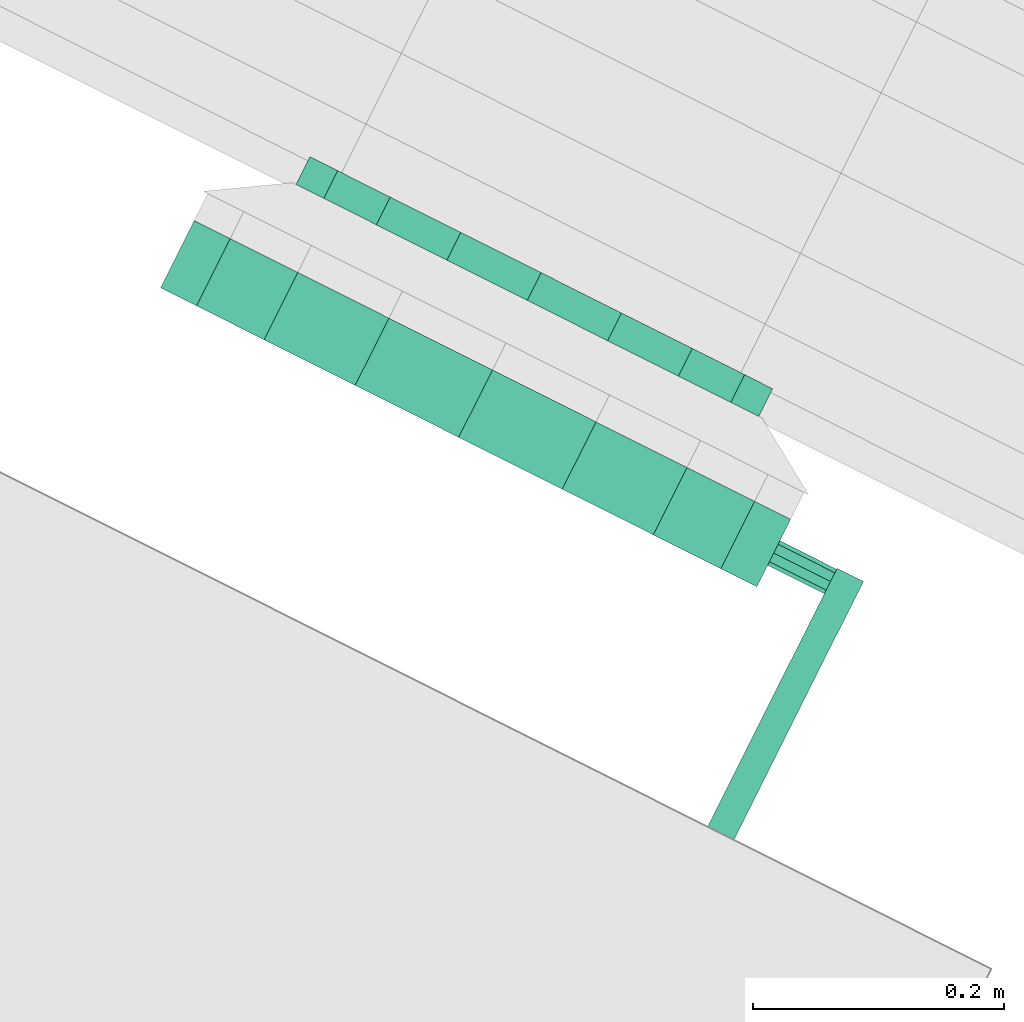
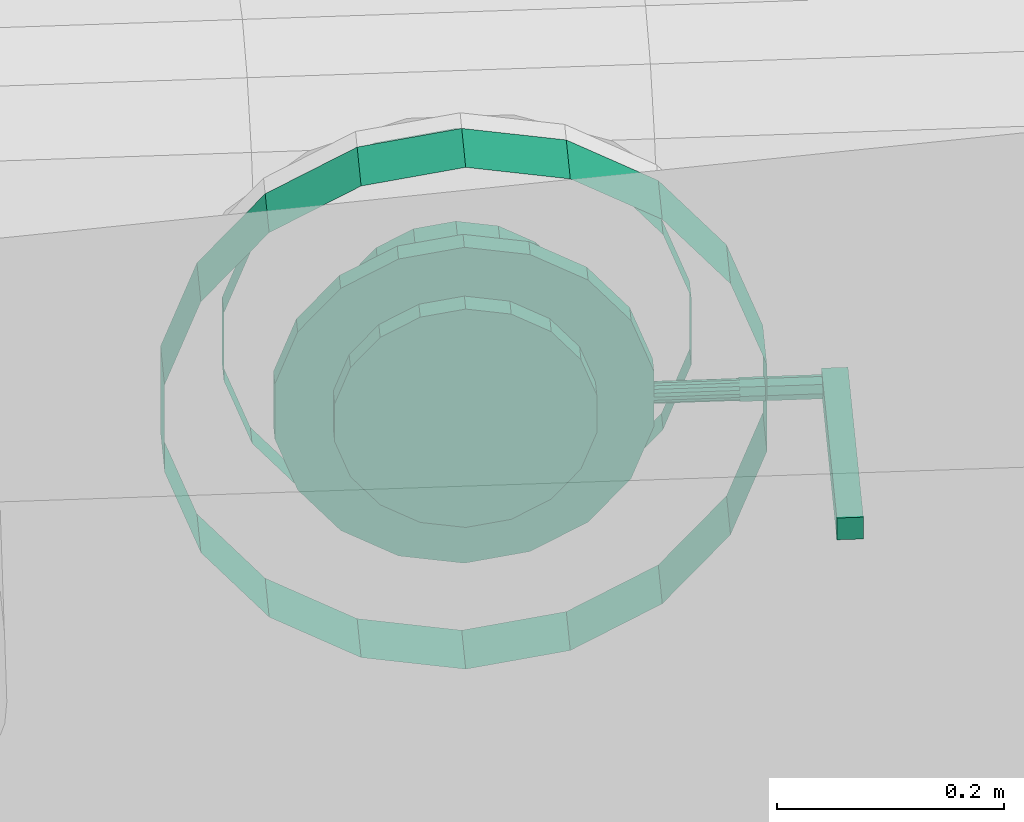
# One storey, part 52 of 152: 1 flow controller, 1 flow segment.
"""IFC2X3 building model written with IfcOpenShell, lengths in metres."""

from ifc_helpers import new_model, si_unit, derived_unit, direction, frame, origin, place, context, subcontext, project, spatial, face_set, surface_model, source, transform, mapped, material, type_object, type_shapes, element, save


model = new_model("IFC2X3")

# Units and contexts
model_context = context("Model", 3, precision=5.2338327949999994e-05, world=origin(), true_north=direction((0.0, 1.0)))
body_context = subcontext(model_context, "Body", "Model", "MODEL_VIEW")
ifc_project = project(units=[si_unit("LENGTHUNIT", "METRE"), si_unit("AREAUNIT", "SQUARE_METRE"), si_unit("VOLUMEUNIT", "CUBIC_METRE"), si_unit("MASSUNIT", "GRAM", prefix="KILO"), si_unit("PLANEANGLEUNIT", "RADIAN"), derived_unit("THERMALTRANSMITTANCEUNIT", [(si_unit("MASSUNIT", "GRAM", prefix="KILO"), 1), (si_unit("THERMODYNAMICTEMPERATUREUNIT", "KELVIN"), -1), (si_unit("TIMEUNIT", "SECOND"), -3)])], contexts=[model_context])

# Site, building, storey
site_placement = place(None, frame((0.0, 0.0, 0.0), z_axis=(0.0, 0.0, 1.0), x_axis=(0.8939966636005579, -0.4480736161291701, 0.0)))
site = spatial("IfcSite", under=ifc_project, at=site_placement, Name="Default", CompositionType="ELEMENT")
building_placement = place(site_placement, origin())
building = spatial("IfcBuilding", under=site, at=building_placement, CompositionType="ELEMENT")
storey_placement = place(building_placement, frame((0.0, 0.0, 2.7499999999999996)))
storey = spatial("IfcBuildingStorey", under=building, at=storey_placement, Name="1. Obergeschoss", CompositionType="ELEMENT", Elevation=2.7499999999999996)

# Flow controller
ifc_material = material(Name="IfcSurfaceStyle #9317")
distribution_element_type_1 = type_object("IfcDistributionElementType", Name="Zwischenflanschklappe 613281:Zwischenflanschklappe 613281", material=ifc_material)
shared_shape_1 = source(origin(), body_context, "Body", "SurfaceModel", [
    surface_model("IfcFaceBasedSurfaceModel", [(34.26677278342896, 8.120137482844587, 4.571299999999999), (34.26677278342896, 8.350987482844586, 4.571299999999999), (34.26677278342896, 8.350987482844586, 4.547799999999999), (34.26677278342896, 8.120137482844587, 4.547799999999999), (34.29027278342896, 8.350987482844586, 4.547799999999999), (34.29027278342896, 8.120137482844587, 4.547799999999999), (34.29027278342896, 8.350987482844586, 4.571299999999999), (34.29027278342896, 8.120137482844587, 4.571299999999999), (33.950272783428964, 8.309237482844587, 4.442049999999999), (33.910085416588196, 8.309237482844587, 4.449136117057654), (33.910085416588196, 8.329237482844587, 4.449136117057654), (33.950272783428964, 8.329237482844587, 4.442049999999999), (33.874745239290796, 8.309237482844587, 4.469539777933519), (33.874745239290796, 8.329237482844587, 4.469539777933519), (33.84851479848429, 8.309237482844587, 4.500799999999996), (33.84851479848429, 8.329237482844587, 4.500799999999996), (33.83455787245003, 8.309237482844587, 4.539146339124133), (33.83455787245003, 8.329237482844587, 4.539146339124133), (33.83455787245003, 8.309237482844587, 4.579953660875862), (33.83455787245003, 8.329237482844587, 4.579953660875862), (33.84851479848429, 8.309237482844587, 4.6183), (33.84851479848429, 8.329237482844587, 4.6183), (33.874745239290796, 8.309237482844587, 4.649560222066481), (33.874745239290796, 8.329237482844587, 4.649560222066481), (33.910085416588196, 8.309237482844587, 4.669963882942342), (33.910085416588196, 8.329237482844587, 4.669963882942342), (33.950272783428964, 8.309237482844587, 4.677049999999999), (33.950272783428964, 8.329237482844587, 4.677049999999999), (33.990460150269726, 8.309237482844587, 4.669963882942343), (33.990460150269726, 8.329237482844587, 4.669963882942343), (34.02580032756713, 8.309237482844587, 4.649560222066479), (34.02580032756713, 8.329237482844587, 4.649560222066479), (34.05203076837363, 8.309237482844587, 4.618299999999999), (34.05203076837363, 8.329237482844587, 4.618299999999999), (34.065987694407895, 8.309237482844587, 4.579953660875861), (34.065987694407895, 8.329237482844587, 4.579953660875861), (34.065987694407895, 8.309237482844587, 4.539146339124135), (34.065987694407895, 8.329237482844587, 4.539146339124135), (34.05203076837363, 8.309237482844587, 4.5008), (34.05203076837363, 8.329237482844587, 4.5008), (34.02580032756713, 8.309237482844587, 4.469539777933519), (34.02580032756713, 8.329237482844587, 4.469539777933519), (33.990460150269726, 8.309237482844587, 4.449136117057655), (33.990460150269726, 8.329237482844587, 4.449136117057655), (33.950272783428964, 8.309237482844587, 4.559549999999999), (33.950272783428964, 8.329237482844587, 4.559549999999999), (33.950272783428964, 8.329237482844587, 4.38955), (33.89212935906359, 8.329237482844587, 4.399802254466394), (33.89212935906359, 8.349237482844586, 4.399802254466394), (33.950272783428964, 8.349237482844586, 4.38955), (33.84099888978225, 8.329237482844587, 4.42932244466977), (33.84099888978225, 8.349237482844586, 4.42932244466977), (33.803048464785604, 8.329237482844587, 4.474549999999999), (33.803048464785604, 8.349237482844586, 4.474549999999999), (33.78285546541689, 8.329237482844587, 4.530029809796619), (33.78285546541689, 8.349237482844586, 4.530029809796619), (33.78285546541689, 8.329237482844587, 4.589070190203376), (33.78285546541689, 8.349237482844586, 4.589070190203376), (33.803048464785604, 8.329237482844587, 4.64455), (33.803048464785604, 8.349237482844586, 4.64455), (33.84099888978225, 8.329237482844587, 4.689777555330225), (33.84099888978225, 8.349237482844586, 4.689777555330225), (33.89212935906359, 8.329237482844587, 4.719297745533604), (33.89212935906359, 8.349237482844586, 4.719297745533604), (33.950272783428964, 8.329237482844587, 4.729549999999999), (33.950272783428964, 8.349237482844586, 4.729549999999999), (34.008416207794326, 8.329237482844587, 4.719297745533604), (34.008416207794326, 8.349237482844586, 4.719297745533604), (34.059546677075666, 8.329237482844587, 4.689777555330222), (34.059546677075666, 8.349237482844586, 4.689777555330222), (34.09749710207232, 8.329237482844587, 4.644549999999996), (34.09749710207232, 8.349237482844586, 4.644549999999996), (34.11769010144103, 8.329237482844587, 4.589070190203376), (34.11769010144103, 8.349237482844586, 4.589070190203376), (34.11769010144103, 8.329237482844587, 4.53002980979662), (34.11769010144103, 8.349237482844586, 4.53002980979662), (34.09749710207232, 8.329237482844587, 4.474549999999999), (34.09749710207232, 8.349237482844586, 4.474549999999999), (34.059546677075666, 8.329237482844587, 4.429322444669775), (34.059546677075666, 8.349237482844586, 4.429322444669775), (34.008416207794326, 8.329237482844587, 4.399802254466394), (34.008416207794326, 8.349237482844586, 4.399802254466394), (33.950272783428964, 8.349237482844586, 4.559549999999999), (33.950272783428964, 8.349237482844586, 4.442049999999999), (33.910085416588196, 8.349237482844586, 4.449136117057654), (33.910085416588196, 8.369237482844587, 4.449136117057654), (33.950272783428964, 8.369237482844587, 4.442049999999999), (33.874745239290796, 8.349237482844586, 4.469539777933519), (33.874745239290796, 8.369237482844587, 4.469539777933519), (33.84851479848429, 8.349237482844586, 4.500799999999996), (33.84851479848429, 8.369237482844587, 4.500799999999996), (33.83455787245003, 8.349237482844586, 4.539146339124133), (33.83455787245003, 8.369237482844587, 4.539146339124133), (33.83455787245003, 8.349237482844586, 4.579953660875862), (33.83455787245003, 8.369237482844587, 4.579953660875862), (33.84851479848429, 8.349237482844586, 4.6183), (33.84851479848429, 8.369237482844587, 4.6183), (33.874745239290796, 8.349237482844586, 4.649560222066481), (33.874745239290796, 8.369237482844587, 4.649560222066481), (33.910085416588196, 8.349237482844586, 4.669963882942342), (33.910085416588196, 8.369237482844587, 4.669963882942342), (33.950272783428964, 8.349237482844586, 4.677049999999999), (33.950272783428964, 8.369237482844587, 4.677049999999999), (33.990460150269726, 8.349237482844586, 4.669963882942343), (33.990460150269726, 8.369237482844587, 4.669963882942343), (34.02580032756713, 8.349237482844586, 4.649560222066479), (34.02580032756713, 8.369237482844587, 4.649560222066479), (34.05203076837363, 8.349237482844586, 4.618299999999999), (34.05203076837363, 8.369237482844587, 4.618299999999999), (34.065987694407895, 8.349237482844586, 4.579953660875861), (34.065987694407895, 8.369237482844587, 4.579953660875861), (34.065987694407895, 8.349237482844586, 4.539146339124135), (34.065987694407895, 8.369237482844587, 4.539146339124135), (34.05203076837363, 8.349237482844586, 4.5008), (34.05203076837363, 8.369237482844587, 4.5008), (34.02580032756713, 8.349237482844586, 4.469539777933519), (34.02580032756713, 8.369237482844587, 4.469539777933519), (33.990460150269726, 8.349237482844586, 4.449136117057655), (33.990460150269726, 8.369237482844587, 4.449136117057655), (33.950272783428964, 8.369237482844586, 4.559549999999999), (33.950272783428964, 8.339237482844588, 4.549549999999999), (33.950272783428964, 8.342657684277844, 4.55015307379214), (34.19352278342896, 8.342657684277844, 4.55015307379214), (34.19352278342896, 8.339237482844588, 4.549549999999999), (33.950272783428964, 8.345665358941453, 4.551889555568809), (34.19352278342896, 8.345665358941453, 4.551889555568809), (33.950272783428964, 8.34789773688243, 4.554549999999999), (34.19352278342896, 8.34789773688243, 4.554549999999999), (33.950272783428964, 8.349085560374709, 4.5578135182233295), (34.19352278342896, 8.349085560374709, 4.5578135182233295), (33.950272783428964, 8.349085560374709, 4.561286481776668), (34.19352278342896, 8.349085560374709, 4.561286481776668), (33.950272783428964, 8.34789773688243, 4.564549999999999), (34.19352278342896, 8.34789773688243, 4.564549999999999), (33.950272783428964, 8.345665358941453, 4.567210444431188), (34.19352278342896, 8.345665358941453, 4.567210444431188), (33.950272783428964, 8.342657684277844, 4.568946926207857), (34.19352278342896, 8.342657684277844, 4.568946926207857), (33.950272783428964, 8.339237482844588, 4.569549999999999), (34.19352278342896, 8.339237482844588, 4.569549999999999), (33.950272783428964, 8.33581728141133, 4.568946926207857), (34.19352278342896, 8.33581728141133, 4.568946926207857), (33.950272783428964, 8.332809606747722, 4.567210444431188), (34.19352278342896, 8.332809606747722, 4.567210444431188), (33.950272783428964, 8.330577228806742, 4.564549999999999), (34.19352278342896, 8.330577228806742, 4.564549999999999), (33.950272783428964, 8.329389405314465, 4.561286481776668), (34.19352278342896, 8.329389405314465, 4.561286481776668), (33.950272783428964, 8.329389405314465, 4.5578135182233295), (34.19352278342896, 8.329389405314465, 4.5578135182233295), (33.950272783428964, 8.330577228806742, 4.554549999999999), (34.19352278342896, 8.330577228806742, 4.554549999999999), (33.950272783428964, 8.332809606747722, 4.551889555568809), (34.19352278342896, 8.332809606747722, 4.551889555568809), (33.950272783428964, 8.33581728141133, 4.55015307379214), (34.19352278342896, 8.33581728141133, 4.55015307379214), (33.95027278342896, 8.339237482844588, 4.559549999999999), (34.19352278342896, 8.339237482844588, 4.559549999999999), (34.19352278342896, 8.339237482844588, 4.548594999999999), (34.19352278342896, 8.346983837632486, 4.5518036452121), (34.26677278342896, 8.346983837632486, 4.5518036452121), (34.26677278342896, 8.339237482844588, 4.548594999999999), (34.19352278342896, 8.350192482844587, 4.559549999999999), (34.26677278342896, 8.350192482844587, 4.559549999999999), (34.19352278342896, 8.346983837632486, 4.5672963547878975), (34.26677278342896, 8.346983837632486, 4.5672963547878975), (34.19352278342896, 8.339237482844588, 4.570504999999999), (34.26677278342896, 8.339237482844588, 4.570504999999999), (34.19352278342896, 8.331491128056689, 4.5672963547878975), (34.26677278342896, 8.331491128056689, 4.5672963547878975), (34.19352278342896, 8.328282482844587, 4.559549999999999), (34.26677278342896, 8.328282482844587, 4.559549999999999), (34.19352278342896, 8.331491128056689, 4.5518036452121), (34.26677278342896, 8.331491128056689, 4.5518036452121), (34.26677278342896, 8.33923748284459, 4.559549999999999), (33.950272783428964, 8.309237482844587, 4.289549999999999), (33.85792734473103, 8.309237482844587, 4.305832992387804), (33.85792734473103, 8.369237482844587, 4.305832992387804), (33.950272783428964, 8.369237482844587, 4.289549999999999), (33.776720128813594, 8.309237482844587, 4.352718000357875), (33.776720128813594, 8.369237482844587, 4.352718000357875), (33.71644592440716, 8.309237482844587, 4.424549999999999), (33.71644592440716, 8.369237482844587, 4.424549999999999), (33.68437469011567, 8.309237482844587, 4.5126649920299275), (33.68437469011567, 8.369237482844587, 4.5126649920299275), (33.68437469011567, 8.309237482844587, 4.60643500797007), (33.68437469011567, 8.369237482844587, 4.60643500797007), (33.71644592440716, 8.309237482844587, 4.694549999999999), (33.71644592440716, 8.369237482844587, 4.694549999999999), (33.776720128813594, 8.309237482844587, 4.766381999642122), (33.776720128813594, 8.369237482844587, 4.766381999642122), (33.85792734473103, 8.309237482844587, 4.813267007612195), (33.85792734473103, 8.369237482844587, 4.813267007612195), (33.950272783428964, 8.309237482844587, 4.829549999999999), (33.950272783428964, 8.369237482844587, 4.829549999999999), (34.04261822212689, 8.309237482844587, 4.813267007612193), (34.04261822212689, 8.369237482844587, 4.813267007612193), (34.12382543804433, 8.309237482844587, 4.766381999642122), (34.12382543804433, 8.369237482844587, 4.766381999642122), (34.18409964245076, 8.309237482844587, 4.694549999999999), (34.18409964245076, 8.369237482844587, 4.694549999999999), (34.21617087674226, 8.309237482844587, 4.60643500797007), (34.21617087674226, 8.369237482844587, 4.60643500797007), (34.21617087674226, 8.309237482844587, 4.5126649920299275), (34.21617087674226, 8.369237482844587, 4.5126649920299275), (34.18409964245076, 8.309237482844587, 4.424549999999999), (34.18409964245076, 8.369237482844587, 4.424549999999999), (34.12382543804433, 8.309237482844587, 4.352718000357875), (34.12382543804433, 8.369237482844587, 4.352718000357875), (34.04261822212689, 8.309237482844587, 4.305832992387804), (34.04261822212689, 8.369237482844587, 4.305832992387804)], [face_set([[[0, 1, 2, 3]], [[3, 2, 4, 5]], [[5, 4, 6, 7]], [[7, 6, 1, 0]], [[0, 3, 5, 7]], [[6, 4, 2, 1]], [[8, 9, 10, 11]], [[9, 12, 13, 10]], [[12, 14, 15, 13]], [[14, 16, 17, 15]], [[16, 18, 19, 17]], [[18, 20, 21, 19]], [[20, 22, 23, 21]], [[22, 24, 25, 23]], [[24, 26, 27, 25]], [[26, 28, 29, 27]], [[28, 30, 31, 29]], [[30, 32, 33, 31]], [[32, 34, 35, 33]], [[34, 36, 37, 35]], [[36, 38, 39, 37]], [[38, 40, 41, 39]], [[40, 42, 43, 41]], [[42, 8, 11, 43]], [[44, 9, 8]], [[44, 12, 9]], [[44, 14, 12]], [[44, 16, 14]], [[44, 18, 16]], [[44, 20, 18]], [[44, 22, 20]], [[44, 24, 22]], [[44, 26, 24]], [[44, 28, 26]], [[44, 30, 28]], [[44, 32, 30]], [[44, 34, 32]], [[44, 36, 34]], [[44, 38, 36]], [[44, 40, 38]], [[44, 42, 40]], [[44, 8, 42]], [[45, 43, 11]], [[45, 41, 43]], [[45, 39, 41]], [[45, 37, 39]], [[45, 35, 37]], [[45, 33, 35]], [[45, 31, 33]], [[45, 29, 31]], [[45, 27, 29]], [[45, 25, 27]], [[45, 23, 25]], [[45, 21, 23]], [[45, 19, 21]], [[45, 17, 19]], [[45, 15, 17]], [[45, 13, 15]], [[45, 10, 13]], [[45, 11, 10]], [[46, 47, 48, 49]], [[47, 50, 51, 48]], [[50, 52, 53, 51]], [[52, 54, 55, 53]], [[54, 56, 57, 55]], [[56, 58, 59, 57]], [[58, 60, 61, 59]], [[60, 62, 63, 61]], [[62, 64, 65, 63]], [[64, 66, 67, 65]], [[66, 68, 69, 67]], [[68, 70, 71, 69]], [[70, 72, 73, 71]], [[72, 74, 75, 73]], [[74, 76, 77, 75]], [[76, 78, 79, 77]], [[78, 80, 81, 79]], [[80, 46, 49, 81]], [[45, 47, 46]], [[45, 50, 47]], [[45, 52, 50]], [[45, 54, 52]], [[45, 56, 54]], [[45, 58, 56]], [[45, 60, 58]], [[45, 62, 60]], [[45, 64, 62]], [[45, 66, 64]], [[45, 68, 66]], [[45, 70, 68]], [[45, 72, 70]], [[45, 74, 72]], [[45, 76, 74]], [[45, 78, 76]], [[45, 80, 78]], [[45, 46, 80]], [[82, 81, 49]], [[82, 79, 81]], [[82, 77, 79]], [[82, 75, 77]], [[82, 73, 75]], [[82, 71, 73]], [[82, 69, 71]], [[82, 67, 69]], [[82, 65, 67]], [[82, 63, 65]], [[82, 61, 63]], [[82, 59, 61]], [[82, 57, 59]], [[82, 55, 57]], [[82, 53, 55]], [[82, 51, 53]], [[82, 48, 51]], [[82, 49, 48]], [[83, 84, 85, 86]], [[84, 87, 88, 85]], [[87, 89, 90, 88]], [[89, 91, 92, 90]], [[91, 93, 94, 92]], [[93, 95, 96, 94]], [[95, 97, 98, 96]], [[97, 99, 100, 98]], [[99, 101, 102, 100]], [[101, 103, 104, 102]], [[103, 105, 106, 104]], [[105, 107, 108, 106]], [[107, 109, 110, 108]], [[109, 111, 112, 110]], [[111, 113, 114, 112]], [[113, 115, 116, 114]], [[115, 117, 118, 116]], [[117, 83, 86, 118]], [[82, 84, 83]], [[82, 87, 84]], [[82, 89, 87]], [[82, 91, 89]], [[82, 93, 91]], [[82, 95, 93]], [[82, 97, 95]], [[82, 99, 97]], [[82, 101, 99]], [[82, 103, 101]], [[82, 105, 103]], [[82, 107, 105]], [[82, 109, 107]], [[82, 111, 109]], [[82, 113, 111]], [[82, 115, 113]], [[82, 117, 115]], [[82, 83, 117]], [[119, 118, 86]], [[119, 116, 118]], [[119, 114, 116]], [[119, 112, 114]], [[119, 110, 112]], [[119, 108, 110]], [[119, 106, 108]], [[119, 104, 106]], [[119, 102, 104]], [[119, 100, 102]], [[119, 98, 100]], [[119, 96, 98]], [[119, 94, 96]], [[119, 92, 94]], [[119, 90, 92]], [[119, 88, 90]], [[119, 85, 88]], [[119, 86, 85]], [[120, 121, 122, 123]], [[121, 124, 125, 122]], [[124, 126, 127, 125]], [[126, 128, 129, 127]], [[128, 130, 131, 129]], [[130, 132, 133, 131]], [[132, 134, 135, 133]], [[134, 136, 137, 135]], [[136, 138, 139, 137]], [[138, 140, 141, 139]], [[140, 142, 143, 141]], [[142, 144, 145, 143]], [[144, 146, 147, 145]], [[146, 148, 149, 147]], [[148, 150, 151, 149]], [[150, 152, 153, 151]], [[152, 154, 155, 153]], [[154, 120, 123, 155]], [[156, 121, 120]], [[156, 124, 121]], [[156, 126, 124]], [[156, 128, 126]], [[156, 130, 128]], [[156, 132, 130]], [[156, 134, 132]], [[156, 136, 134]], [[156, 138, 136]], [[156, 140, 138]], [[156, 142, 140]], [[156, 144, 142]], [[156, 146, 144]], [[156, 148, 146]], [[156, 150, 148]], [[156, 152, 150]], [[156, 154, 152]], [[156, 120, 154]], [[157, 155, 123]], [[157, 153, 155]], [[157, 151, 153]], [[157, 149, 151]], [[157, 147, 149]], [[157, 145, 147]], [[157, 143, 145]], [[157, 141, 143]], [[157, 139, 141]], [[157, 137, 139]], [[157, 135, 137]], [[157, 133, 135]], [[157, 131, 133]], [[157, 129, 131]], [[157, 127, 129]], [[157, 125, 127]], [[157, 122, 125]], [[157, 123, 122]], [[158, 159, 160, 161]], [[159, 162, 163, 160]], [[162, 164, 165, 163]], [[164, 166, 167, 165]], [[166, 168, 169, 167]], [[168, 170, 171, 169]], [[170, 172, 173, 171]], [[172, 158, 161, 173]], [[174, 173, 161]], [[174, 171, 173]], [[174, 169, 171]], [[174, 167, 169]], [[174, 165, 167]], [[174, 163, 165]], [[174, 160, 163]], [[174, 161, 160]], [[175, 176, 177, 178]], [[176, 179, 180, 177]], [[179, 181, 182, 180]], [[181, 183, 184, 182]], [[183, 185, 186, 184]], [[185, 187, 188, 186]], [[187, 189, 190, 188]], [[189, 191, 192, 190]], [[191, 193, 194, 192]], [[193, 195, 196, 194]], [[195, 197, 198, 196]], [[197, 199, 200, 198]], [[199, 201, 202, 200]], [[201, 203, 204, 202]], [[203, 205, 206, 204]], [[205, 207, 208, 206]], [[207, 209, 210, 208]], [[209, 175, 178, 210]]])]),
])
type_shapes(distribution_element_type_1, [shared_shape_1])
flow_controller_placement = place(storey_placement, frame((0.0, 0.0, -2.7499999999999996)))
element("IfcFlowController", 1, at=flow_controller_placement, inside=storey, type_object=distribution_element_type_1, material=ifc_material, Name="Zwischenflanschklappe", ObjectType="Zwischenflanschklappe", context=body_context, shape_type="MappedRepresentation", body=[
    mapped(shared_shape_1, transform((0.0, 0.0, 0.0), scale=1.0)),
])

# Flow segment
distribution_element_type_2 = type_object("IfcDistributionElementType", Name="Stahlrohr nach DIN 2448 613304:Stahlrohr nach DIN 2448 613304", material=ifc_material)
shared_shape_2 = source(origin(), body_context, "Body", "SurfaceModel", [
    surface_model("IfcFaceBasedSurfaceModel", [(33.950272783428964, 8.455986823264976, 4.449999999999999), (33.98774109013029, 8.455986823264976, 4.456606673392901), (33.987741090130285, 8.431237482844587, 4.456606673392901), (33.950272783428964, 8.431237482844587, 4.450000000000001), (34.02069016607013, 8.455986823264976, 4.475629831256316), (34.02069016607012, 8.431237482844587, 4.475629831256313), (34.04514586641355, 8.455986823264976, 4.504775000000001), (34.04514586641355, 8.431237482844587, 4.504775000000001), (34.05815847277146, 8.455986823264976, 4.540526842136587), (34.05815847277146, 8.431237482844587, 4.540526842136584), (34.05815847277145, 8.455986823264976, 4.578573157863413), (34.05815847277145, 8.431237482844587, 4.578573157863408), (34.04514586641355, 8.455986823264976, 4.614325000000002), (34.04514586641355, 8.431237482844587, 4.614325), (34.020690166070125, 8.455986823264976, 4.6434701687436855), (34.02069016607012, 8.431237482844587, 4.643470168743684), (33.98774109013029, 8.455986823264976, 4.662493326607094), (33.98774109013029, 8.431237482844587, 4.662493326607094), (33.950272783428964, 8.455986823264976, 4.669099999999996), (33.95027278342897, 8.431237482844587, 4.6690999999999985), (33.91280447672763, 8.455986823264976, 4.662493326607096), (33.91280447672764, 8.431237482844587, 4.662493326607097), (33.8798554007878, 8.455986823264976, 4.643470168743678), (33.8798554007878, 8.431237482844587, 4.643470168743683), (33.85539970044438, 8.455986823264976, 4.6143249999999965), (33.85539970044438, 8.431237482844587, 4.614325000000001), (33.84238709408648, 8.455986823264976, 4.578573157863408), (33.84238709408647, 8.431237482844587, 4.578573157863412), (33.84238709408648, 8.455986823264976, 4.540526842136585), (33.842387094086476, 8.431237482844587, 4.540526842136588), (33.85539970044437, 8.455986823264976, 4.504774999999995), (33.855399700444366, 8.431237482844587, 4.504775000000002), (33.87985540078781, 8.455986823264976, 4.475629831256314), (33.8798554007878, 8.431237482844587, 4.475629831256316), (33.91280447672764, 8.455986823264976, 4.456606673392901), (33.91280447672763, 8.431237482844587, 4.456606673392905), (33.950272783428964, 8.455986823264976, 4.349999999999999), (34.02194310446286, 8.455986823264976, 4.362637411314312), (34.02194310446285, 8.431237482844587, 4.362637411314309), (33.95027278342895, 8.431237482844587, 4.349999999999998), (34.08496892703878, 8.455986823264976, 4.39902538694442), (34.08496892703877, 8.431237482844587, 4.399025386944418), (34.131748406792, 8.455986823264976, 4.454775), (34.131748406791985, 8.431237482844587, 4.454774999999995), (34.156639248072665, 8.455986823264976, 4.523162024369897), (34.156639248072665, 8.431237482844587, 4.523162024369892), (34.15663924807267, 8.455986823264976, 4.595937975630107), (34.15663924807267, 8.431237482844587, 4.595937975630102), (34.131748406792, 8.455986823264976, 4.664325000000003), (34.13174840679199, 8.431237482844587, 4.664324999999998), (34.08496892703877, 8.455986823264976, 4.72007461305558), (34.08496892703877, 8.431237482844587, 4.720074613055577), (34.02194310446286, 8.455986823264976, 4.756462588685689), (34.021943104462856, 8.431237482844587, 4.756462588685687), (33.95027278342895, 8.455986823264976, 4.7690999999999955), (33.950272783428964, 8.431237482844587, 4.769099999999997), (33.878602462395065, 8.455986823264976, 4.756462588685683), (33.878602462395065, 8.431237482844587, 4.756462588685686), (33.815576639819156, 8.455986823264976, 4.720074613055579), (33.815576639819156, 8.431237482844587, 4.720074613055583), (33.76879716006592, 8.455986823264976, 4.664324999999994), (33.76879716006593, 8.431237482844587, 4.664325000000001), (33.74390631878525, 8.455986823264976, 4.595937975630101), (33.74390631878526, 8.431237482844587, 4.595937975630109), (33.74390631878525, 8.455986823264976, 4.5231620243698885), (33.74390631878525, 8.431237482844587, 4.523162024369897), (33.76879716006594, 8.455986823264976, 4.454774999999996), (33.76879716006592, 8.431237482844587, 4.454775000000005), (33.815576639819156, 8.455986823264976, 4.399025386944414), (33.81557663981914, 8.431237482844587, 4.3990253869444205), (33.87860246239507, 8.455986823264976, 4.362637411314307), (33.878602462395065, 8.431237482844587, 4.362637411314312)], [face_set([[[0, 1, 2, 3]], [[1, 4, 5, 2]], [[4, 6, 7, 5]], [[6, 8, 9, 7]], [[8, 10, 11, 9]], [[10, 12, 13, 11]], [[12, 14, 15, 13]], [[14, 16, 17, 15]], [[16, 18, 19, 17]], [[18, 20, 21, 19]], [[20, 22, 23, 21]], [[22, 24, 25, 23]], [[24, 26, 27, 25]], [[26, 28, 29, 27]], [[28, 30, 31, 29]], [[30, 32, 33, 31]], [[32, 34, 35, 33]], [[34, 0, 3, 35]], [[36, 37, 38, 39]], [[37, 40, 41, 38]], [[40, 42, 43, 41]], [[42, 44, 45, 43]], [[44, 46, 47, 45]], [[46, 48, 49, 47]], [[48, 50, 51, 49]], [[50, 52, 53, 51]], [[52, 54, 55, 53]], [[54, 56, 57, 55]], [[56, 58, 59, 57]], [[58, 60, 61, 59]], [[60, 62, 63, 61]], [[62, 64, 65, 63]], [[64, 66, 67, 65]], [[66, 68, 69, 67]], [[68, 70, 71, 69]], [[70, 36, 39, 71]]])]),
])
type_shapes(distribution_element_type_2, [shared_shape_2])
flow_segment_placement = place(storey_placement, frame((0.0, 0.0, -2.7499999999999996)))
element("IfcFlowSegment", 2, at=flow_segment_placement, inside=storey, type_object=distribution_element_type_2, material=ifc_material, Name="Stahlrohr nach DIN 2448", ObjectType="Stahlrohr nach DIN 2448", context=body_context, shape_type="MappedRepresentation", body=[
    mapped(shared_shape_2, transform((0.0, 0.0, 0.0), scale=1.0)),
])

save(model, "model.ifc")
